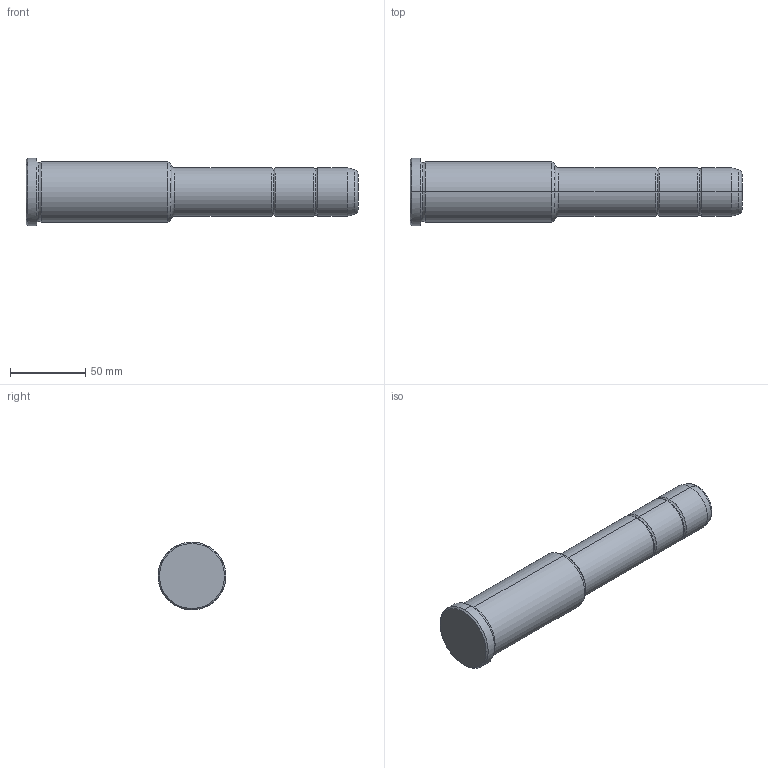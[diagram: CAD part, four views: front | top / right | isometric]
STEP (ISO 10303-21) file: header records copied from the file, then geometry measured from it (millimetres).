
FILE_DESCRIPTION(('CATIA V5 STEP Exchange'),'2;1');
FILE_NAME('C:\Users\Utente\Desktop\IO LAVORO\3D X SITO CF\X SITO\PLASTICA\351\351-32X96X220.stp','2021-09-10T12:20:02+00:00',('none'),('none'),'CATIA Version 5 Release 20 GA (IN-10)','CATIA V5 STEP AP203','none');
FILE_SCHEMA(('CONFIG_CONTROL_DESIGN'));
Length unit declared in the file: millimetre
Products named in the file (1): 351-32X96X220
Bounding box: 220 x 45 x 45 mm (x, y, z)
Volume: 221495.2 mm3; surface area: 27391.1 mm2
Topology: 1 solids, 1 shells, 36 faces, 102 edges, 70 vertices
Faces by surface type: torus 16, cylinder 10, cone 6, plane 4
Entity records: 1292 total; most frequent: CARTESIAN_POINT 321, ORIENTED_EDGE 204, DIRECTION 166, AXIS2_PLACEMENT_3D 115, EDGE_CURVE 102, CIRCLE 78, VERTEX_POINT 70, EDGE_LOOP 38
